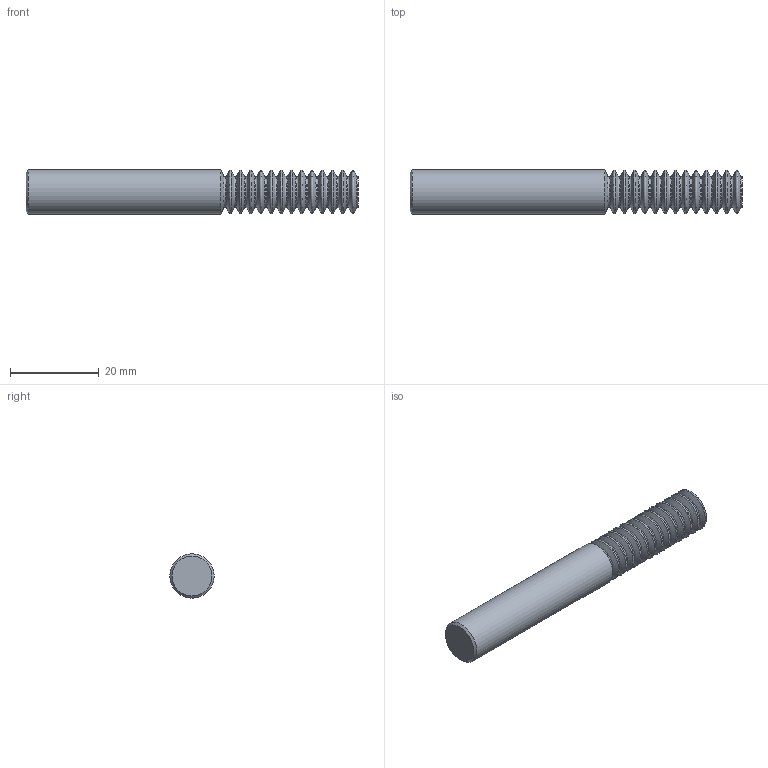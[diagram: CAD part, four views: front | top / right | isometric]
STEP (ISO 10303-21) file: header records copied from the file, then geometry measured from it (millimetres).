
FILE_DESCRIPTION(/* description */ (''),/* implementation_level */ '2;1');
FILE_NAME(/* name */ '00032280-TDM',/* time_stamp */ '2024-02-20T08:54:39+01:00',/* author */ (''),/* organization */ (''),/* preprocessor_version */ 'ST-DEVELOPER v16.5',/* originating_system */ 'HiCAD 2017 2201.0 Build 268',/* authorisation */ '');
FILE_SCHEMA (('AUTOMOTIVE_DESIGN { 1 0 10303 214 1 1 1 1 }'));
Length unit declared in the file: millimetre
Products named in the file (3): Root; ROTATIONSTEIL_0
Assembly tree (2 placements, depth 3):
  Root
    ROTATIONSTEIL_0
      ROTATIONSTEIL_0
Bounding box: 75 x 10 x 10 mm (x, y, z)
Volume: 5146 mm3; surface area: 2969 mm2
Topology: 2 solids, 2 shells, 88 faces, 172 edges, 88 vertices
Faces by surface type: torus 40, cone 28, cylinder 16, plane 4
Full cylindrical faces by diameter (mm): 6.912 x15, 10 x1
Entity records: 2664 total; most frequent: DIRECTION 356, CARTESIAN_POINT 264, AXIS2_PLACEMENT_3D 178, PRESENTATION_STYLE_ASSIGNMENT 174, COLOUR_RGB 174, DRAUGHTING_PRE_DEFINED_CURVE_FONT 172, CURVE_STYLE 172, OVER_RIDING_STYLED_ITEM 172
